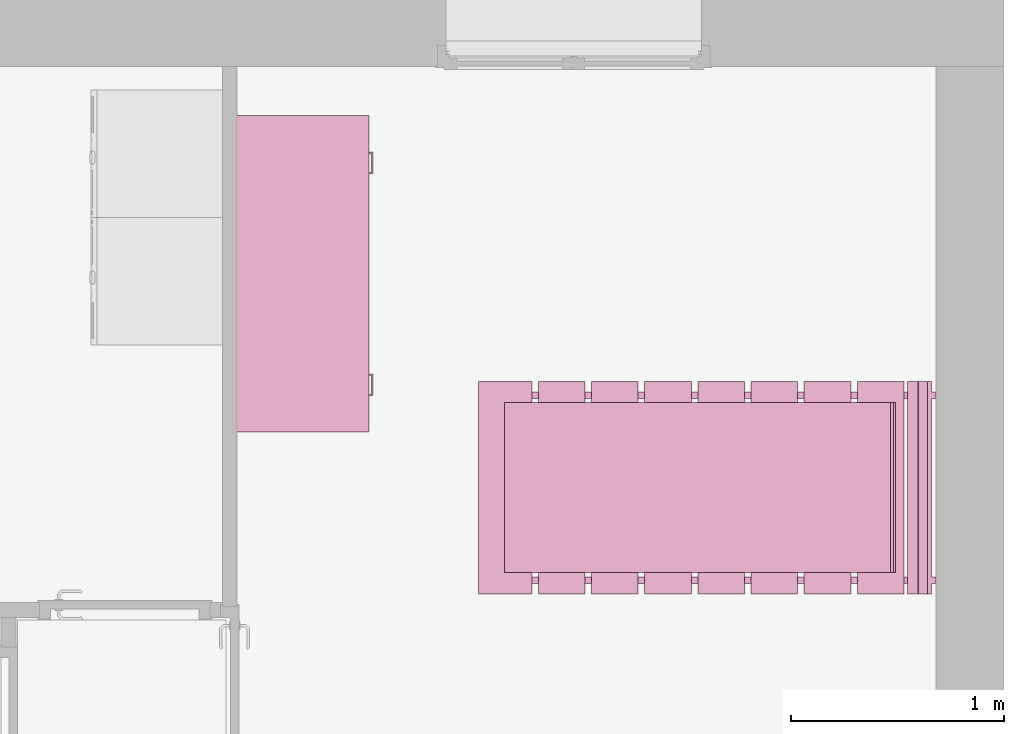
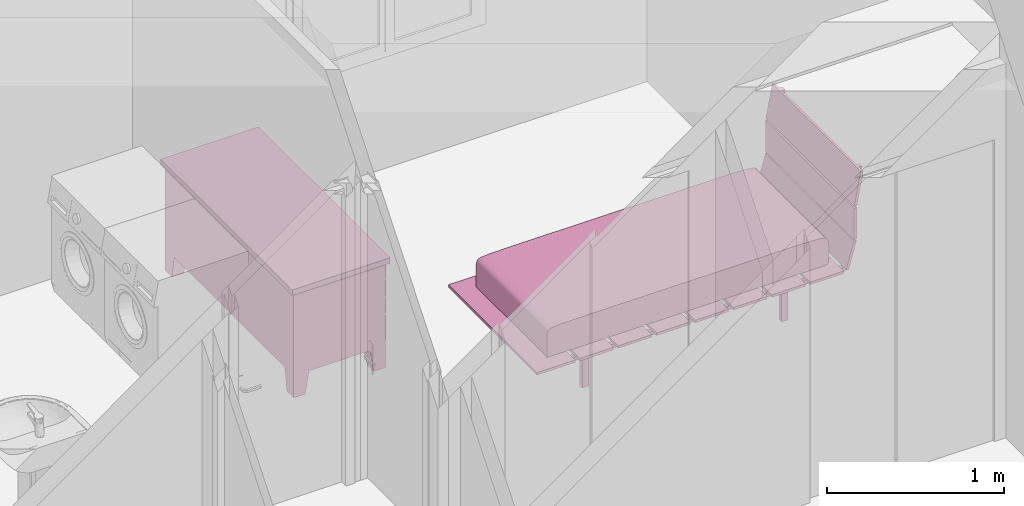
# One storey, part 50 of 50: 2 furnishings.
"""IFC2X3 building model written with IfcOpenShell, lengths in metres."""

from ifc_helpers import new_model, entity, si_unit, converted_unit, derived_unit, direction, frame, frame_2d, origin, origin_2d_with_axis, place, context, subcontext, project, spatial, polyline, circle_curve, parameter, trimmed, segment, composite_curve, rectangle, outline, extrude, faceted_brep, source, transform, mapped, material, material_list, type_object, type_shapes, element, save


model = new_model("IFC2X3")

# Units and contexts
model_context = context("Model", 3, precision=1e-05, world=origin(), true_north=direction((6.12303176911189e-17, 1.0)))
context_of_model = context(None, 3, precision=1e-05, world=origin(), true_north=direction((6.12303176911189e-17, 1.0)))
body_context = subcontext(model_context, "Body", "Model", "MODEL_VIEW")
ifc_project = project(units=[si_unit("LENGTHUNIT", "METRE"), si_unit("AREAUNIT", "SQUARE_METRE"), si_unit("VOLUMEUNIT", "CUBIC_METRE"), converted_unit("PLANEANGLEUNIT", "DEGREE", entity("IfcRatioMeasure", 0.0174532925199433), si_unit("PLANEANGLEUNIT", "RADIAN"), dimensions=[0, 0, 0, 0, 0, 0, 0]), si_unit("MASSUNIT", "GRAM", prefix="KILO"), si_unit("TIMEUNIT", "SECOND"), si_unit("FREQUENCYUNIT", "HERTZ"), si_unit("THERMODYNAMICTEMPERATUREUNIT", "DEGREE_CELSIUS"), derived_unit("THERMALTRANSMITTANCEUNIT", [(si_unit("MASSUNIT", "GRAM", prefix="KILO"), 1), (si_unit("THERMODYNAMICTEMPERATUREUNIT", "KELVIN"), -1), (si_unit("TIMEUNIT", "SECOND"), -3)]), derived_unit("VOLUMETRICFLOWRATEUNIT", [(si_unit("LENGTHUNIT", "METRE"), 3), (si_unit("TIMEUNIT", "SECOND"), -1)]), si_unit("ELECTRICCURRENTUNIT", "AMPERE"), si_unit("ELECTRICVOLTAGEUNIT", "VOLT"), si_unit("POWERUNIT", "WATT"), si_unit("FORCEUNIT", "NEWTON", prefix="KILO"), si_unit("ILLUMINANCEUNIT", "LUX"), si_unit("LUMINOUSFLUXUNIT", "LUMEN"), si_unit("LUMINOUSINTENSITYUNIT", "CANDELA"), si_unit("PRESSUREUNIT", "PASCAL")], contexts=[model_context, context_of_model])

# Site, building, storey, space
site_placement = place(None, origin())
site = spatial("IfcSite", under=ifc_project, at=site_placement, Name="Surface", CompositionType="ELEMENT")
building_placement = place(site_placement, origin())
building = spatial("IfcBuilding", under=site, at=building_placement, CompositionType="ELEMENT")
storey_placement = place(building_placement, frame((0.0, 0.0, 2.82)))
storey = spatial("IfcBuildingStorey", under=building, at=storey_placement, Name="ETAGE", CompositionType="ELEMENT", Elevation=2.82)
space_placement = place(storey_placement, origin())
space = spatial("IfcSpace", under=storey, at=space_placement, Name="474", CompositionType="ELEMENT", InteriorOrExteriorSpace="INTERNAL")

# Furnishings
ifc_material_1 = material(Name="Bois - Mélaminé ivoire")
ifc_material_2 = material(Name="Métal - Chrome")
ifc_material_3 = material(Name="Bois - Cerisier")
ifc_material_list_1 = material_list([ifc_material_1, ifc_material_2, ifc_material_3])
ifc_material_list_2 = material_list([ifc_material_1, ifc_material_2, ifc_material_3])
furniture_type_1 = type_object("IfcFurnitureType", Name="1525 mm x 600 mm", AssemblyPlace="NOTDEFINED", material=ifc_material_list_2)
shared_shape_1 = source(origin(), body_context, "Body", "Brep", [
    faceted_brep([(1.06265, -0.599999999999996, 0.704850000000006), (1.43095, -0.599999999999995, 0.704850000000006), (1.43095, -0.599999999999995, 0.603250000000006), (1.06265, -0.599999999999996, 0.603250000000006), (1.06265, -0.612699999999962, 0.603250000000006), (1.06265, -0.612699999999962, 0.704850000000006), (1.43095, -0.612699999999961, 0.603250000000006), (1.43095, -0.612699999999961, 0.704850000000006)], [[[0, 1, 2, 3]], [[3, 4, 5, 0]], [[2, 6, 4, 3]], [[1, 7, 6, 2]], [[0, 5, 7, 1]], [[5, 4, 6, 7]]]),
    faceted_brep([(1.43095, -0.612699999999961, 0.584200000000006), (1.06265, -0.612699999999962, 0.584200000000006), (1.06265, -0.612699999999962, 0.17105), (1.43095, -0.612699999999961, 0.17105), (1.06265, -0.599999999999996, 0.584200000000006), (1.43095, -0.599999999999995, 0.584200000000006), (1.06265, -0.599999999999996, 0.17105), (1.43095, -0.599999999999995, 0.17105)], [[[0, 1, 2, 3]], [[4, 1, 0, 5]], [[6, 2, 1, 4]], [[7, 3, 2, 6]], [[5, 0, 3, 7]], [[5, 7, 6, 4]]]),
    faceted_brep([(0.38735, -0.6, 0.70485), (0.38735, -0.6, 0.60285), (0.01905, -0.6, 0.60285), (0.01905, -0.6, 0.70485), (0.01905, -0.612700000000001, 0.70485), (0.38735, -0.612700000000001, 0.70485), (0.01905, -0.612700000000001, 0.60285), (0.38735, -0.612700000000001, 0.60285)], [[[0, 1, 2, 3]], [[3, 4, 5, 0]], [[2, 6, 4, 3]], [[1, 7, 6, 2]], [[0, 5, 7, 1]], [[5, 4, 6, 7]]]),
    faceted_brep([(0.01905, -0.612700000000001, 0.5838), (0.01905, -0.612700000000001, 0.4822), (0.38735, -0.612700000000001, 0.4822), (0.38735, -0.612700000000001, 0.5838), (0.01905, -0.6, 0.4822), (0.01905, -0.6, 0.5838), (0.38735, -0.6, 0.4822), (0.38735, -0.6, 0.5838)], [[[0, 1, 2, 3]], [[4, 1, 0, 5]], [[6, 2, 1, 4]], [[7, 3, 2, 6]], [[5, 0, 3, 7]], [[5, 7, 6, 4]]]),
    faceted_brep([(0.01905, -0.6, 0.17105), (0.01905, -0.612700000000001, 0.17105), (0.01905, -0.612700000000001, 0.3425), (0.01905, -0.6, 0.3425), (0.38735, -0.6, 0.17105), (0.38735, -0.612700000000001, 0.17105), (0.38735, -0.6, 0.3425), (0.38735, -0.612700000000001, 0.3425)], [[[0, 1, 2, 3]], [[4, 5, 1, 0]], [[6, 7, 5, 4]], [[3, 2, 7, 6]], [[2, 1, 5, 7]], [[3, 6, 4, 0]]]),
    faceted_brep([(0.01905, -0.6, 0.36155), (0.01905, -0.612700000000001, 0.36155), (0.01905, -0.612700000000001, 0.46315), (0.01905, -0.6, 0.46315), (0.38735, -0.6, 0.36155), (0.38735, -0.612700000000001, 0.36155), (0.38735, -0.6, 0.46315), (0.38735, -0.612700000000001, 0.46315)], [[[0, 1, 2, 3]], [[4, 5, 1, 0]], [[6, 7, 5, 4]], [[3, 2, 7, 6]], [[2, 1, 5, 7]], [[3, 6, 4, 0]]]),
    faceted_brep([(1.34839999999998, -0.6, 0.152), (1.44999999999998, -0.6, 0.152), (1.44999999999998, -0.498399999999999, 0.152), (1.34839999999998, -0.498399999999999, 0.152), (1.37379999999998, -0.6, 0.0), (1.37379999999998, -0.5238, 0.0), (1.44999999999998, -0.5238, 0.0), (1.44999999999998, -0.6, 0.0)], [[[0, 1, 2, 3]], [[4, 5, 6, 7]], [[4, 0, 3, 5]], [[5, 3, 2, 6]], [[6, 2, 1, 7]], [[7, 1, 0, 4]]]),
    faceted_brep([(1.3484, 0.0, 0.152), (1.3484, -0.1016, 0.152), (1.45, -0.1016, 0.152), (1.45, 0.0, 0.152), (1.3738, 0.0, 0.0), (1.45, 0.0, 0.0), (1.45, -0.0761999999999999, 0.0), (1.3738, -0.0761999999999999, 0.0)], [[[0, 1, 2, 3]], [[4, 5, 6, 7]], [[4, 0, 3, 5]], [[5, 3, 2, 6]], [[6, 2, 1, 7]], [[7, 1, 0, 4]]]),
    faceted_brep([(0.1016, 0.0, 0.152), (0.0, 0.0, 0.152), (0.0, -0.1016, 0.152), (0.1016, -0.1016, 0.152), (0.0762, 0.0, 0.0), (0.0762, -0.0761999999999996, 0.0), (0.0, -0.0761999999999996, 0.0), (0.0, 0.0, 0.0)], [[[0, 1, 2, 3]], [[4, 5, 6, 7]], [[4, 0, 3, 5]], [[5, 3, 2, 6]], [[6, 2, 1, 7]], [[7, 1, 0, 4]]]),
    faceted_brep([(0.1016, -0.600000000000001, 0.152), (0.1016, -0.498400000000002, 0.152), (0.0, -0.498400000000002, 0.152), (0.0, -0.600000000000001, 0.152), (0.0761999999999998, -0.600000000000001, 0.0), (0.0, -0.600000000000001, 0.0), (0.0, -0.523800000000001, 0.0), (0.0761999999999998, -0.523800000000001, 0.0)], [[[0, 1, 2, 3]], [[4, 5, 6, 7]], [[4, 0, 3, 5]], [[5, 3, 2, 6]], [[6, 2, 1, 7]], [[7, 1, 0, 4]]]),
    faceted_brep([(0.4064, -0.6, 0.723900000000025), (0.4064, -0.0508000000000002, 0.723900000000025), (1.04360000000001, -0.0508000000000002, 0.723900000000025), (1.04360000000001, -0.6, 0.723900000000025), (1.45, -0.6, 0.723900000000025), (1.45, 0.0, 0.723900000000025), (0.0, 0.0, 0.723900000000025), (0.0, -0.6, 0.723900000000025), (0.4064, -0.6, 0.152), (0.0, -0.6, 0.152), (0.0, 0.0, 0.152), (1.45, 0.0, 0.152), (1.45, -0.6, 0.152), (1.04360000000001, -0.6, 0.152), (1.04360000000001, -0.0508000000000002, 0.152), (0.4064, -0.0508000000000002, 0.152)], [[[0, 1, 2, 3, 4, 5, 6, 7]], [[8, 9, 10, 11, 12, 13, 14, 15]], [[7, 9, 8, 0]], [[6, 10, 9, 7]], [[5, 11, 10, 6]], [[4, 12, 11, 5]], [[3, 13, 12, 4]], [[2, 14, 13, 3]], [[1, 15, 14, 2]], [[0, 8, 15, 1]]]),
    faceted_brep([(1.46905000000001, -0.619049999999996, 0.761999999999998), (1.46905000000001, 0.0190500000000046, 0.761999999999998), (-0.0190499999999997, 0.0190500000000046, 0.761999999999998), (-0.0190499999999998, -0.619049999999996, 0.761999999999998), (1.46905000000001, -0.619049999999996, 0.723900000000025), (-0.0190499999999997, -0.619049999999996, 0.723900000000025), (-0.0190499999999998, 0.0190500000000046, 0.723900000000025), (1.46905000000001, 0.0190500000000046, 0.723900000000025)], [[[0, 1, 2, 3]], [[4, 5, 6, 7]], [[3, 5, 4, 0]], [[2, 6, 5, 3]], [[1, 7, 6, 2]], [[0, 4, 7, 1]]]),
    faceted_brep([(1.29124999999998, -0.612699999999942, 0.546100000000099), (1.29759999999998, -0.612699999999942, 0.546100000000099), (1.29759999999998, -0.612699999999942, 0.533400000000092), (1.29124999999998, -0.612699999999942, 0.533400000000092), (1.29124999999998, -0.631749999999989, 0.533400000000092), (1.29124999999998, -0.631749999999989, 0.546100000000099), (1.29759999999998, -0.638099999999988, 0.533400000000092), (1.29759999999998, -0.638099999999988, 0.546100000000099), (1.20234999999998, -0.631749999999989, 0.533400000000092), (1.20234999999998, -0.631749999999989, 0.546100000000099), (1.19599999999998, -0.638099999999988, 0.533400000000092), (1.19599999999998, -0.638099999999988, 0.546100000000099), (1.20234999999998, -0.612699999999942, 0.533400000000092), (1.20234999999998, -0.612699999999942, 0.546100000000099), (1.19599999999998, -0.612699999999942, 0.533400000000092), (1.19599999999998, -0.612699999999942, 0.546100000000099)], [[[0, 1, 2, 3]], [[3, 4, 5, 0]], [[2, 6, 4, 3]], [[1, 7, 6, 2]], [[0, 5, 7, 1]], [[4, 8, 9, 5]], [[6, 10, 8, 4]], [[7, 11, 10, 6]], [[5, 9, 11, 7]], [[8, 12, 13, 9]], [[10, 14, 12, 8]], [[11, 15, 14, 10]], [[9, 13, 15, 11]], [[13, 12, 14, 15]]]),
    faceted_brep([(1.29124999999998, -0.612699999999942, 0.654050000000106), (1.29124999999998, -0.631749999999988, 0.654050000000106), (1.29124999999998, -0.631749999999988, 0.666750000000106), (1.29124999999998, -0.612699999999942, 0.666750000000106), (1.29759999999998, -0.612699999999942, 0.654050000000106), (1.29759999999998, -0.638099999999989, 0.654050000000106), (1.29759999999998, -0.612699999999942, 0.666750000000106), (1.29759999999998, -0.638099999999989, 0.666750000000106), (1.20234999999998, -0.631749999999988, 0.654050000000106), (1.20234999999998, -0.631749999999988, 0.666750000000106), (1.19599999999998, -0.638099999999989, 0.654050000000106), (1.19599999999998, -0.638099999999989, 0.666750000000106), (1.20234999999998, -0.612699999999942, 0.666750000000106), (1.20234999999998, -0.612699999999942, 0.654050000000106), (1.19599999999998, -0.612699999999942, 0.654050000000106), (1.19599999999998, -0.612699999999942, 0.666750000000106)], [[[0, 1, 2, 3]], [[4, 5, 1, 0]], [[6, 7, 5, 4]], [[3, 2, 7, 6]], [[1, 8, 9, 2]], [[5, 10, 8, 1]], [[7, 11, 10, 5]], [[2, 9, 11, 7]], [[12, 13, 14, 15]], [[8, 13, 12, 9]], [[10, 14, 13, 8]], [[11, 15, 14, 10]], [[9, 12, 15, 11]], [[3, 6, 4, 0]]]),
    faceted_brep([(0.15875, -0.612699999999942, 0.3048), (0.15875, -0.612699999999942, 0.2921), (0.1524, -0.612699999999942, 0.2921), (0.1524, -0.612699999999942, 0.3048), (0.1524, -0.638099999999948, 0.3048), (0.15875, -0.631749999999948, 0.3048), (0.1524, -0.638099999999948, 0.2921), (0.15875, -0.631749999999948, 0.2921), (0.254, -0.638099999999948, 0.3048), (0.24765, -0.631749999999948, 0.3048), (0.254, -0.638099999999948, 0.2921), (0.24765, -0.631749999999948, 0.2921), (0.254, -0.612699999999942, 0.3048), (0.24765, -0.612699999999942, 0.3048), (0.254, -0.612699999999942, 0.2921), (0.24765, -0.612699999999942, 0.2921)], [[[0, 1, 2, 3]], [[3, 4, 5, 0]], [[2, 6, 4, 3]], [[1, 7, 6, 2]], [[0, 5, 7, 1]], [[4, 8, 9, 5]], [[6, 10, 8, 4]], [[7, 11, 10, 6]], [[5, 9, 11, 7]], [[8, 12, 13, 9]], [[10, 14, 12, 8]], [[11, 15, 14, 10]], [[9, 13, 15, 11]], [[13, 12, 14, 15]]]),
    faceted_brep([(0.1524, -0.612699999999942, 0.425450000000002), (0.1524, -0.638099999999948, 0.425450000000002), (0.15875, -0.631749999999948, 0.425450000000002), (0.15875, -0.612699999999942, 0.425450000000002), (0.1524, -0.612699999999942, 0.412750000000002), (0.1524, -0.638099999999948, 0.412750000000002), (0.15875, -0.612699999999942, 0.412750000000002), (0.15875, -0.631749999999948, 0.412750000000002), (0.254, -0.638099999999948, 0.425450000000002), (0.24765, -0.631749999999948, 0.425450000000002), (0.254, -0.638099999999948, 0.412750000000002), (0.24765, -0.631749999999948, 0.412750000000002), (0.254, -0.612699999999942, 0.425450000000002), (0.24765, -0.612699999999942, 0.425450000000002), (0.254, -0.612699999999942, 0.412750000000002), (0.24765, -0.612699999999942, 0.412750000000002)], [[[0, 1, 2, 3]], [[4, 5, 1, 0]], [[6, 7, 5, 4]], [[3, 2, 7, 6]], [[1, 8, 9, 2]], [[5, 10, 8, 1]], [[7, 11, 10, 5]], [[2, 9, 11, 7]], [[8, 12, 13, 9]], [[10, 14, 12, 8]], [[11, 15, 14, 10]], [[9, 13, 15, 11]], [[13, 12, 14, 15]], [[3, 6, 4, 0]]]),
    faceted_brep([(0.1524, -0.612699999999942, 0.5461), (0.1524, -0.638099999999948, 0.5461), (0.15875, -0.631749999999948, 0.5461), (0.15875, -0.612699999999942, 0.5461), (0.1524, -0.612699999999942, 0.5334), (0.1524, -0.638099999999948, 0.5334), (0.15875, -0.612699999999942, 0.5334), (0.15875, -0.631749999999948, 0.5334), (0.254, -0.638099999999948, 0.5461), (0.24765, -0.631749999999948, 0.5461), (0.254, -0.638099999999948, 0.5334), (0.24765, -0.631749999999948, 0.5334), (0.254, -0.612699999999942, 0.5461), (0.24765, -0.612699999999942, 0.5461), (0.254, -0.612699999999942, 0.5334), (0.24765, -0.612699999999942, 0.5334)], [[[0, 1, 2, 3]], [[4, 5, 1, 0]], [[6, 7, 5, 4]], [[3, 2, 7, 6]], [[1, 8, 9, 2]], [[5, 10, 8, 1]], [[7, 11, 10, 5]], [[2, 9, 11, 7]], [[8, 12, 13, 9]], [[10, 14, 12, 8]], [[11, 15, 14, 10]], [[9, 13, 15, 11]], [[13, 12, 14, 15]], [[3, 6, 4, 0]]]),
    faceted_brep([(0.1524, -0.612699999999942, 0.666750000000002), (0.1524, -0.638099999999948, 0.666750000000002), (0.15875, -0.631749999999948, 0.666750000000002), (0.15875, -0.612699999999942, 0.666750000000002), (0.1524, -0.612699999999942, 0.654050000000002), (0.1524, -0.638099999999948, 0.654050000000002), (0.15875, -0.612699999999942, 0.654050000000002), (0.15875, -0.631749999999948, 0.654050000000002), (0.254, -0.638099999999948, 0.666750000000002), (0.24765, -0.631749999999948, 0.666750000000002), (0.254, -0.638099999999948, 0.654050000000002), (0.24765, -0.631749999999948, 0.654050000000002), (0.24765, -0.612699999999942, 0.666750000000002), (0.254, -0.612699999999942, 0.666750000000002), (0.254, -0.612699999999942, 0.654050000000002), (0.24765, -0.612699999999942, 0.654050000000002)], [[[0, 1, 2, 3]], [[4, 5, 1, 0]], [[6, 7, 5, 4]], [[3, 2, 7, 6]], [[1, 8, 9, 2]], [[5, 10, 8, 1]], [[7, 11, 10, 5]], [[2, 9, 11, 7]], [[12, 13, 14, 15]], [[8, 13, 12, 9]], [[10, 14, 13, 8]], [[11, 15, 14, 10]], [[9, 12, 15, 11]], [[3, 6, 4, 0]]]),
])
type_shapes(furniture_type_1, [shared_shape_1])
furnishing_1_placement = place(space_placement, frame((87.5489023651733, 90.4475239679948, 0.0199999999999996), z_axis=(0.0, 0.0, 1.0), x_axis=(0.0, 1.0, 0.0)))
element("IfcFurnishingElement", 1, at=furnishing_1_placement, inside=space, type_object=furniture_type_1, material=ifc_material_list_1, Name="Bureau commun:1525 mm x 600 mm", ObjectType="1525 mm x 600 mm", context=body_context, shape_type="MappedRepresentation", body=[
    mapped(shared_shape_1, transform((0.0, 0.0, 0.0), scale=1.0)),
])
ifc_material_4 = material(Name="Textile - Bleu pâle")
ifc_material_5 = material(Name="Bois - Teck")
ifc_material_6 = material(Name="Plastique - Noir")
ifc_material_list_3 = material_list([ifc_material_4, ifc_material_5, ifc_material_6])
ifc_material_list_4 = material_list([ifc_material_4, ifc_material_5, ifc_material_6])
furniture_type_2 = type_object("IfcFurnitureType", Name="1000 mm x 2000 mm 3", AssemblyPlace="NOTDEFINED", material=ifc_material_list_4)
shared_shape_2 = source(origin(), body_context, "Body", "SweptSolid", [
    extrude(outline(composite_curve([segment(polyline([(0.753947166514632, -0.0964613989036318), (0.883258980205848, -0.0964613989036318)]), True, "CONTINUOUS"), segment(trimmed(circle_curve(frame_2d((0.82804087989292, 1.1581587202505), x_axis=(0.999878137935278, -0.0156111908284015)), 1.25583465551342), [parameter(273.414556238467)], [parameter(275.726345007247)], True, "PARAMETER"), True, "CONTINUOUS"), segment(trimmed(circle_curve(frame_2d((0.929150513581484, -0.0379486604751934), x_axis=(0.999878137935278, -0.0156111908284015)), 0.0554613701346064), [parameter(275.726345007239)], [parameter(297.64810869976)], True, "PARAMETER"), True, "CONTINUOUS"), segment(trimmed(circle_curve(frame_2d((0.943544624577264, -0.0665015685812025), x_axis=(0.999878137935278, -0.0156111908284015)), 0.0234854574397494), [parameter(297.648108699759)], [parameter(348.570161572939)], True, "PARAMETER"), True, "CONTINUOUS"), segment(trimmed(circle_curve(frame_2d((0.767446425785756, -0.0280276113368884), x_axis=(0.999878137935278, -0.0156111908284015)), 0.203737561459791), [parameter(348.570161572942)], [parameter(3.56222124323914e-13)], True, "PARAMETER"), True, "CONTINUOUS"), segment(polyline([(0.971159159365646, -0.0312081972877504), (0.97301851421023, 0.0878812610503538)]), True, "CONTINUOUS"), segment(polyline([(0.97301851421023, 0.0878812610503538), (0.971187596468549, 0.10002359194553)]), True, "CONTINUOUS"), segment(polyline([(0.971187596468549, 0.10002359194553), (0.955059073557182, 0.102294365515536)]), True, "CONTINUOUS"), segment(polyline([(0.955059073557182, 0.102294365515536), (-0.834665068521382, 0.130237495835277)]), True, "CONTINUOUS"), segment(polyline([(-0.834665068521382, 0.130237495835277), (-0.854928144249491, 0.12651595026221)]), True, "CONTINUOUS"), segment(polyline([(-0.854928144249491, 0.12651595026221), (-0.861114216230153, 0.118536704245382)]), True, "CONTINUOUS"), segment(polyline([(-0.861114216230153, 0.118536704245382), (-0.865626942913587, 0.0883228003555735)]), True, "CONTINUOUS"), segment(polyline([(-0.865626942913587, 0.0883228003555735), (-0.866982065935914, 0.00152878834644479)]), True, "CONTINUOUS"), segment(polyline([(-0.866982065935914, 0.00152878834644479), (-0.863446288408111, -0.0308297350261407)]), True, "CONTINUOUS"), segment(polyline([(-0.863446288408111, -0.0308297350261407), (-0.857669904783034, -0.0490905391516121)]), True, "CONTINUOUS"), segment(polyline([(-0.857669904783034, -0.0490905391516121), (-0.843687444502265, -0.0594036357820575)]), True, "CONTINUOUS"), segment(polyline([(-0.843687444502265, -0.0594036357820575), (-0.817521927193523, -0.0658690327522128)]), True, "CONTINUOUS"), segment(polyline([(-0.817521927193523, -0.0658690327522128), (-0.696416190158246, -0.0738167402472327)]), True, "CONTINUOUS"), segment(polyline([(-0.696416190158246, -0.0738167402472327), (0.753947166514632, -0.0964613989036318)]), True, "CONTINUOUS")], self_intersect=False)), frame((-0.4, -1.05656455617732, 0.367191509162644), z_axis=(1.0, 0.0, 0.0), x_axis=(0.0, -0.999878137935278, -0.0156111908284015)), (0.0, 0.0, 1.0), 0.799999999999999),
    extrude(rectangle(XDim=0.249999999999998, YDim=1.0, at=origin_2d_with_axis()), frame((0.0, -2.02499620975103, 0.232311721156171), z_axis=(0.0, 0.0, 1.0), x_axis=(0.0, 1.0, 0.0)), (0.0, 0.0, 1.0), 0.0176882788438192),
    extrude(outline(polyline([(-0.00463256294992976, -0.115042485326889), (0.0130278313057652, -0.115042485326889), (0.00471132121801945, 0.115371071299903), (-0.0131065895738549, 0.114713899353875), (-0.00463256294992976, -0.115042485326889)])), frame((-0.5, -0.051324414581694, 0.783374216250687), z_axis=(1.0, 0.0, 0.0), x_axis=(0.0, 0.975885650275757, -0.218282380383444)), (0.0, 0.0, 1.0), 0.999999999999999),
    extrude(rectangle(XDim=0.219999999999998, YDim=1.0, at=frame_2d((-1.38777878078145e-16, 0.0), x_axis=(1.0, 0.0))), frame((0.0, -1.75999620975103, 0.232311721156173), z_axis=(0.0, 0.0, 1.0), x_axis=(0.0, 1.0, 0.0)), (0.0, 0.0, 1.0), 0.0176882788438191),
    extrude(rectangle(XDim=0.219999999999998, YDim=1.0, at=frame_2d((-1.31838984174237e-16, 0.0), x_axis=(1.0, 0.0))), frame((0.0, -1.50999620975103, 0.232311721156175), z_axis=(0.0, 0.0, 1.0), x_axis=(0.0, 1.0, 0.0)), (0.0, 0.0, 1.0), 0.017688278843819),
    extrude(rectangle(XDim=0.219999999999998, YDim=1.0, at=frame_2d((-1.38777878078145e-16, 0.0), x_axis=(1.0, 0.0))), frame((0.0, -1.25999620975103, 0.232311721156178), z_axis=(0.0, 0.0, 1.0), x_axis=(0.0, 1.0, 0.0)), (0.0, 0.0, 1.0), 0.0176882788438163),
    extrude(rectangle(XDim=0.219999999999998, YDim=1.0, at=frame_2d((6.93889390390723e-17, 0.0), x_axis=(1.0, 0.0))), frame((0.0, -1.00999620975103, 0.232311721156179), z_axis=(0.0, 0.0, 1.0), x_axis=(0.0, 1.0, 0.0)), (0.0, 0.0, 1.0), 0.0176882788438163),
    extrude(rectangle(XDim=0.22, YDim=1.0, at=origin_2d_with_axis()), frame((0.0, -0.759996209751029, 0.232311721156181), z_axis=(0.0, 0.0, 1.0), x_axis=(0.0, 1.0, 0.0)), (0.0, 0.0, 1.0), 0.0176882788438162),
    extrude(rectangle(XDim=0.22, YDim=1.0, at=origin_2d_with_axis()), frame((0.0, -0.509996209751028, 0.232311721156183), z_axis=(0.0, 0.0, 1.0), x_axis=(0.0, 1.0, 0.0)), (0.0, 0.0, 1.0), 0.0176882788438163),
    extrude(rectangle(XDim=0.22, YDim=1.0, at=origin_2d_with_axis()), frame((0.0, -0.259996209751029, 0.232311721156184), z_axis=(0.0, 0.0, 1.0), x_axis=(0.0, 1.0, 0.0)), (0.0, 0.0, 1.0), 0.0176882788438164),
    extrude(rectangle(XDim=0.0183684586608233, YDim=1.0, at=origin_2d_with_axis()), frame((0.0, -0.0735868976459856, 0.443802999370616), z_axis=(0.0, 0.0, 1.0), x_axis=(0.0, 1.0, 0.0)), (0.0, 0.0, 1.0), 0.214481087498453),
    extrude(outline(polyline([(-0.0111603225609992, -0.093944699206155), (0.00684599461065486, -0.093944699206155), (0.0109625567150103, 0.0940897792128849), (-0.00664822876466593, 0.093799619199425), (-0.0111603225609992, -0.093944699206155)])), frame((-0.5, -0.100341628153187, 0.340588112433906), z_axis=(1.0, 0.0, 0.0), x_axis=(0.0, 0.969329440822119, -0.245764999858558)), (0.0, 0.0, 1.0), 1.0),
    extrude(rectangle(XDim=0.0421792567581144, YDim=0.03, at=frame_2d((0.0, -3.38271077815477e-17), x_axis=(1.0, 0.0))), frame((-0.434999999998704, -1.80439834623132, 0.0), z_axis=(0.0, 0.0, 1.0), x_axis=(0.0, -1.0, 0.0)), (0.0, 0.0, 1.0), 0.204645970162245),
    extrude(rectangle(XDim=0.0421792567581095, YDim=0.03, at=frame_2d((3.29597460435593e-17, -3.38271077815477e-17), x_axis=(1.0, 0.0))), frame((-0.434999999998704, -0.505017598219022, 0.0), z_axis=(0.0, 0.0, 1.0), x_axis=(0.0, -1.0, 0.0)), (0.0, 0.0, 1.0), 0.204645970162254),
    extrude(rectangle(XDim=0.0421792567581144, YDim=0.03, at=frame_2d((2.70616862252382e-16, -3.38271077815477e-17), x_axis=(1.0, 0.0))), frame((0.435000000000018, -1.80439834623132, 0.0), z_axis=(0.0, 0.0, 1.0), x_axis=(0.0, 1.0, 0.0)), (0.0, 0.0, 1.0), 0.204645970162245),
    extrude(rectangle(XDim=0.0421792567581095, YDim=0.03, at=frame_2d((-3.29597460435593e-17, -3.38271077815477e-17), x_axis=(1.0, 0.0))), frame((0.435000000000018, -0.505017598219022, 0.0), z_axis=(0.0, 0.0, 1.0), x_axis=(0.0, 1.0, 0.0)), (0.0, 0.0, 1.0), 0.204645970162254),
    extrude(outline(composite_curve([segment(polyline([(-0.333462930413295, -0.507724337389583), (-0.311650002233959, -0.507724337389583)]), True, "CONTINUOUS"), segment(polyline([(-0.311650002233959, -0.507724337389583), (-0.317185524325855, -0.272424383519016)]), True, "CONTINUOUS"), segment(polyline([(-0.317185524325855, -0.272424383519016), (-0.363847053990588, -0.050782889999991)]), True, "CONTINUOUS"), segment(polyline([(-0.363847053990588, -0.050782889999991), (-0.350538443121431, 0.161194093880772)]), True, "CONTINUOUS"), segment(polyline([(-0.350538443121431, 0.161194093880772), (1.5836166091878, 0.569312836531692)]), True, "CONTINUOUS"), segment(polyline([(1.5836166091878, 0.569312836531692), (1.55147511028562, 0.589891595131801)]), True, "CONTINUOUS"), segment(polyline([(1.55147511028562, 0.589891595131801), (-0.355855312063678, 0.188346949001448)]), True, "CONTINUOUS"), segment(trimmed(circle_curve(frame_2d((-0.350332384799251, 0.162113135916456), x_axis=(0.978549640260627, 0.206011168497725)), 0.0268088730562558), [parameter(90.0)], [parameter(167.367566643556)], True, "PARAMETER"), True, "CONTINUOUS"), segment(polyline([(-0.377138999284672, 0.162461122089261), (-0.386037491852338, -0.0554545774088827)]), True, "CONTINUOUS"), segment(polyline([(-0.386037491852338, -0.0554545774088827), (-0.339375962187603, -0.277096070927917)]), True, "CONTINUOUS"), segment(polyline([(-0.339375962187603, -0.277096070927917), (-0.333462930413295, -0.507724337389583)]), True, "CONTINUOUS")], self_intersect=False)), frame((-0.449999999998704, -0.430906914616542, 0.462262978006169), z_axis=(1.0, 0.0, 0.0), x_axis=(0.0, -0.978549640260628, 0.206011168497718)), (0.0, 0.0, 1.0), 0.0299999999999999),
    extrude(outline(composite_curve([segment(polyline([(-0.333462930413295, -0.507724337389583), (-0.311650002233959, -0.507724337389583)]), True, "CONTINUOUS"), segment(polyline([(-0.311650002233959, -0.507724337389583), (-0.317185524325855, -0.272424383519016)]), True, "CONTINUOUS"), segment(polyline([(-0.317185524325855, -0.272424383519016), (-0.363847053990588, -0.0507828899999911)]), True, "CONTINUOUS"), segment(polyline([(-0.363847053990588, -0.0507828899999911), (-0.350538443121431, 0.161194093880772)]), True, "CONTINUOUS"), segment(polyline([(-0.350538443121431, 0.161194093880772), (1.5836166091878, 0.569312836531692)]), True, "CONTINUOUS"), segment(polyline([(1.5836166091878, 0.569312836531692), (1.55147511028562, 0.5898915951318)]), True, "CONTINUOUS"), segment(polyline([(1.55147511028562, 0.5898915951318), (-0.355855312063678, 0.188346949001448)]), True, "CONTINUOUS"), segment(trimmed(circle_curve(frame_2d((-0.350332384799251, 0.162113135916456), x_axis=(0.978549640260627, 0.206011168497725)), 0.0268088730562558), [parameter(90.0)], [parameter(167.367566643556)], True, "PARAMETER"), True, "CONTINUOUS"), segment(polyline([(-0.377138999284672, 0.162461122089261), (-0.386037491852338, -0.0554545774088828)]), True, "CONTINUOUS"), segment(polyline([(-0.386037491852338, -0.0554545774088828), (-0.339375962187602, -0.277096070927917)]), True, "CONTINUOUS"), segment(polyline([(-0.339375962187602, -0.277096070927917), (-0.333462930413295, -0.507724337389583)]), True, "CONTINUOUS")], self_intersect=False)), frame((0.420000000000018, -0.430906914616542, 0.462262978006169), z_axis=(1.0, 0.0, 0.0), x_axis=(0.0, -0.978549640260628, 0.206011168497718)), (0.0, 0.0, 1.0), 0.0299999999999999),
])
type_shapes(furniture_type_2, [shared_shape_2])
furnishing_2_placement = place(space_placement, frame((90.8350487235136, 90.1675239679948, 0.0199999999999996), z_axis=(0.0, 0.0, 1.0), x_axis=(0.0, -1.0, 0.0)))
element("IfcFurnishingElement", 2, at=furnishing_2_placement, inside=space, type_object=furniture_type_2, material=ifc_material_list_3, Name="Lit à lattes:1000 mm x 2000 mm 3", ObjectType="1000 mm x 2000 mm 3", context=body_context, shape_type="MappedRepresentation", body=[
    mapped(shared_shape_2, transform((0.0, 0.0, 0.0), scale=1.0)),
])

save(model, "model.ifc")
